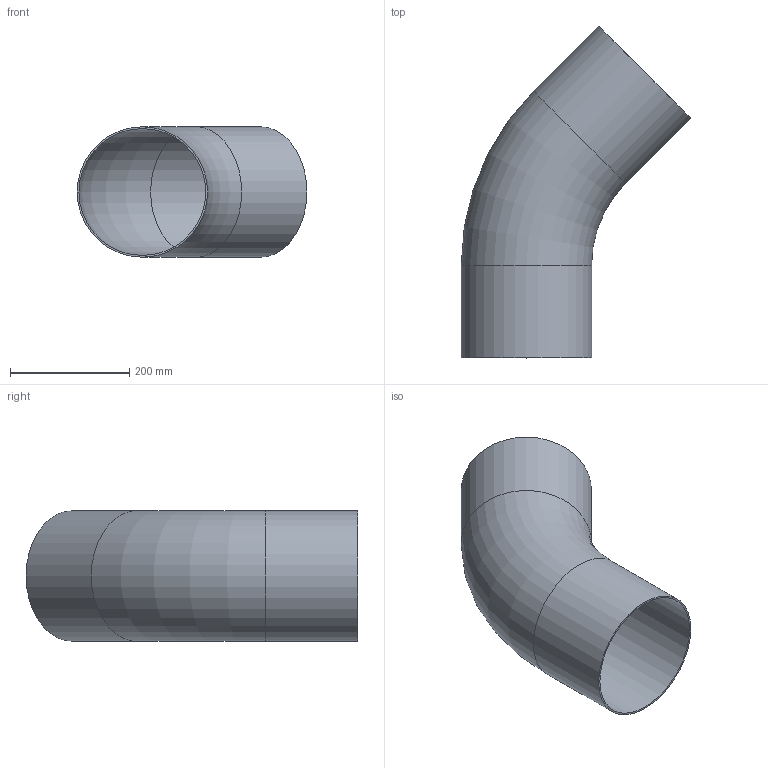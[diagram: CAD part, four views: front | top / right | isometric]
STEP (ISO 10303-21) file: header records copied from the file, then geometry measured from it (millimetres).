
FILE_DESCRIPTION(/* description */ (''),/* implementation_level */ '2;1');
FILE_NAME(/* name */ 'C:\Users\LK_9K\Desktop\STRAUB BOGEN 45 B3 DN200.stp',/* time_stamp */ '2021-04-09T07:05:20+02:00',/* author */ ('LK_9K'),/* organization */ (''),/* preprocessor_version */ 'ST-DEVELOPER v18.1',/* originating_system */ 'Autodesk Inventor 2020',/* authorisation */ '');
FILE_SCHEMA (('AUTOMOTIVE_DESIGN { 1 0 10303 214 3 1 1 }'));
Length unit declared in the file: millimetre
Products named in the file (1): Bauteil1
Bounding box: 385.95 x 557.73 x 219.1 mm (x, y, z)
Volume: 1119258.2 mm3; surface area: 750245.5 mm2
Topology: 1 solids, 1 shells, 8 faces, 20 edges, 14 vertices
Faces by surface type: cylinder 4, torus 2, plane 2
Full cylindrical faces by diameter (mm): 213.1 x2, 219.1 x2
Entity records: 301 total; most frequent: DIRECTION 54, CARTESIAN_POINT 43, ORIENTED_EDGE 40, AXIS2_PLACEMENT_3D 25, EDGE_CURVE 20, CIRCLE 16, VERTEX_POINT 14, EDGE_LOOP 10
